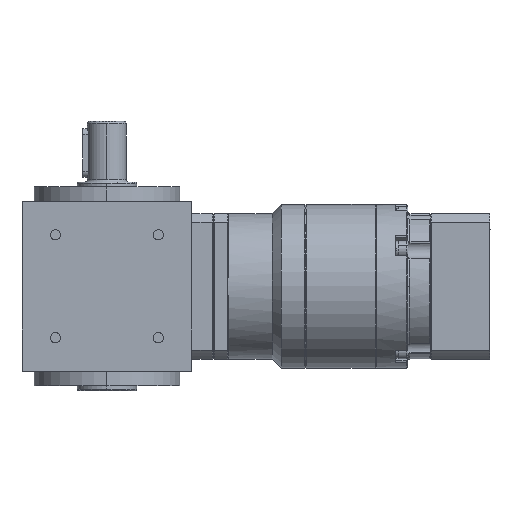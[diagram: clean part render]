
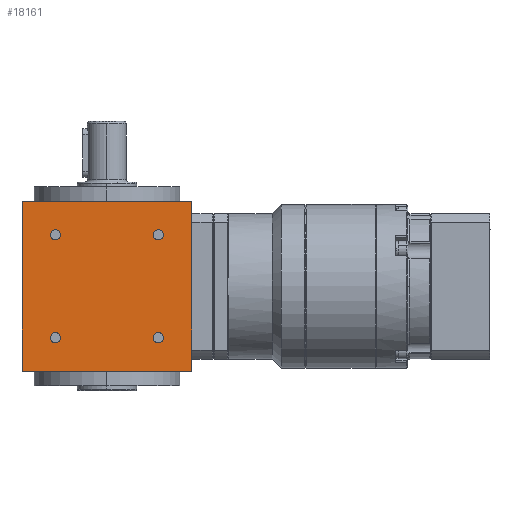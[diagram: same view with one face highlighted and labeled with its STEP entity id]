
A CAD part, left-side view. The second image highlights one B-rep face of the part: STEP entity #18161.
In plain terms, the highlighted planar face has unit normal (-1, 0, 0).
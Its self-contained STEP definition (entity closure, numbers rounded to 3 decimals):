
#19 = ORIENTED_EDGE ( 'NONE', *, *, #26090, .T. ) ;
#114 = EDGE_LOOP ( 'NONE', ( #20665, #18814 ) ) ;
#406 = CARTESIAN_POINT ( 'NONE',  ( -35., -21.213, 21.213 ) ) ;
#896 = DIRECTION ( 'NONE',  ( 1., 0., 0. ) ) ;
#1480 = DIRECTION ( 'NONE',  ( 1., 0., 0. ) ) ;
#1617 = VERTEX_POINT ( 'NONE', #26657 ) ;
#2039 = CARTESIAN_POINT ( 'NONE',  ( -35., 19.113, -21.213 ) ) ;
#2168 = ORIENTED_EDGE ( 'NONE', *, *, #11171, .T. ) ;
#3095 = CARTESIAN_POINT ( 'NONE',  ( -35., 21.213, 21.213 ) ) ;
#3124 = VECTOR ( 'NONE', #5128, 1000. ) ;
#3933 = CIRCLE ( 'NONE', #14916, 2.1 ) ;
#4012 = EDGE_CURVE ( 'NONE', #31429, #11949, #23497, .T. ) ;
#4611 = CIRCLE ( 'NONE', #8281, 2.1 ) ;
#4901 = VERTEX_POINT ( 'NONE', #21063 ) ;
#5128 = DIRECTION ( 'NONE',  ( 0., -1., 0. ) ) ;
#5586 = CIRCLE ( 'NONE', #30213, 2.1 ) ;
#5631 = CARTESIAN_POINT ( 'NONE',  ( -35., 21.213, -21.213 ) ) ;
#5812 = EDGE_LOOP ( 'NONE', ( #18117, #26437 ) ) ;
#5967 = EDGE_LOOP ( 'NONE', ( #30938, #13299, #32366, #22234 ) ) ;
#6041 = EDGE_LOOP ( 'NONE', ( #25519, #2168 ) ) ;
#6938 = ORIENTED_EDGE ( 'NONE', *, *, #4012, .T. ) ;
#6987 = VERTEX_POINT ( 'NONE', #16715 ) ;
#7086 = AXIS2_PLACEMENT_3D ( 'NONE', #3095, #30624, #8149 ) ;
#7315 = VERTEX_POINT ( 'NONE', #13738 ) ;
#7822 = FACE_BOUND ( 'NONE', #114, .T. ) ;
#8149 = DIRECTION ( 'NONE',  ( 0., -1., 0. ) ) ;
#8281 = AXIS2_PLACEMENT_3D ( 'NONE', #5631, #896, #13016 ) ;
#8326 = VERTEX_POINT ( 'NONE', #10213 ) ;
#8504 = DIRECTION ( 'NONE',  ( 0., 0., -1. ) ) ;
#8648 = CIRCLE ( 'NONE', #7086, 2.1 ) ;
#8667 = VERTEX_POINT ( 'NONE', #13310 ) ;
#9309 = AXIS2_PLACEMENT_3D ( 'NONE', #27835, #19788, #29804 ) ;
#9439 = CARTESIAN_POINT ( 'NONE',  ( -35., -19.113, -21.213 ) ) ;
#9988 = CIRCLE ( 'NONE', #19959, 2.1 ) ;
#10078 = CIRCLE ( 'NONE', #12164, 2.1 ) ;
#10213 = CARTESIAN_POINT ( 'NONE',  ( -35., 35., 35. ) ) ;
#10225 = EDGE_CURVE ( 'NONE', #6987, #31085, #13432, .T. ) ;
#10229 = CARTESIAN_POINT ( 'NONE',  ( -35., -21.213, 21.213 ) ) ;
#11069 = CARTESIAN_POINT ( 'NONE',  ( -35., -35., -35. ) ) ;
#11165 = CARTESIAN_POINT ( 'NONE',  ( -35., -23.313, 21.213 ) ) ;
#11171 = EDGE_CURVE ( 'NONE', #12648, #4901, #19940, .T. ) ;
#11435 = CARTESIAN_POINT ( 'NONE',  ( -35., -21.213, -21.213 ) ) ;
#11576 = EDGE_CURVE ( 'NONE', #7315, #20350, #9988, .T. ) ;
#11949 = VERTEX_POINT ( 'NONE', #2039 ) ;
#12164 = AXIS2_PLACEMENT_3D ( 'NONE', #406, #15308, #30234 ) ;
#12195 = DIRECTION ( 'NONE',  ( 0., 0., 1. ) ) ;
#12281 = DIRECTION ( 'NONE',  ( 0., -1., 0. ) ) ;
#12441 = CARTESIAN_POINT ( 'NONE',  ( -35., -21.213, -21.213 ) ) ;
#12569 = FACE_OUTER_BOUND ( 'NONE', #5967, .T. ) ;
#12648 = VERTEX_POINT ( 'NONE', #9439 ) ;
#13016 = DIRECTION ( 'NONE',  ( 0., -1., 0. ) ) ;
#13299 = ORIENTED_EDGE ( 'NONE', *, *, #20849, .F. ) ;
#13310 = CARTESIAN_POINT ( 'NONE',  ( -35., 19.113, 21.213 ) ) ;
#13432 = LINE ( 'NONE', #13901, #25638 ) ;
#13738 = CARTESIAN_POINT ( 'NONE',  ( -35., -19.113, 21.213 ) ) ;
#13901 = CARTESIAN_POINT ( 'NONE',  ( -35., -35., -35. ) ) ;
#14118 = VECTOR ( 'NONE', #27037, 1000. ) ;
#14250 = DIRECTION ( 'NONE',  ( 0., -1., 0. ) ) ;
#14575 = LINE ( 'NONE', #19152, #14118 ) ;
#14916 = AXIS2_PLACEMENT_3D ( 'NONE', #11435, #21447, #27026 ) ;
#15308 = DIRECTION ( 'NONE',  ( 1., 0., 0. ) ) ;
#15444 = LINE ( 'NONE', #25619, #3124 ) ;
#16058 = EDGE_CURVE ( 'NONE', #20350, #7315, #10078, .T. ) ;
#16527 = CARTESIAN_POINT ( 'NONE',  ( -35., 21.213, -21.213 ) ) ;
#16715 = CARTESIAN_POINT ( 'NONE',  ( -35., -35., 35. ) ) ;
#17817 = FACE_BOUND ( 'NONE', #5812, .T. ) ;
#17930 = VERTEX_POINT ( 'NONE', #25884 ) ;
#18117 = ORIENTED_EDGE ( 'NONE', *, *, #16058, .T. ) ;
#18161 = ADVANCED_FACE ( 'NONE', ( #7822, #17817, #32245, #22093, #12569 ), #22569, .T. ) ;
#18814 = ORIENTED_EDGE ( 'NONE', *, *, #30414, .T. ) ;
#18979 = EDGE_CURVE ( 'NONE', #1617, #31085, #15444, .T. ) ;
#19152 = CARTESIAN_POINT ( 'NONE',  ( -35., 0., 35. ) ) ;
#19644 = CARTESIAN_POINT ( 'NONE',  ( -35., 21.213, 21.213 ) ) ;
#19788 = DIRECTION ( 'NONE',  ( -1., 0., 0. ) ) ;
#19940 = CIRCLE ( 'NONE', #23106, 2.1 ) ;
#19959 = AXIS2_PLACEMENT_3D ( 'NONE', #10229, #25335, #27634 ) ;
#19994 = DIRECTION ( 'NONE',  ( 1., 0., 0. ) ) ;
#20350 = VERTEX_POINT ( 'NONE', #11165 ) ;
#20665 = ORIENTED_EDGE ( 'NONE', *, *, #29206, .T. ) ;
#20849 = EDGE_CURVE ( 'NONE', #8326, #6987, #14575, .T. ) ;
#21063 = CARTESIAN_POINT ( 'NONE',  ( -35., -23.313, -21.213 ) ) ;
#21447 = DIRECTION ( 'NONE',  ( 1., 0., 0. ) ) ;
#21782 = DIRECTION ( 'NONE',  ( 0., -1., 0. ) ) ;
#22093 = FACE_BOUND ( 'NONE', #23989, .T. ) ;
#22234 = ORIENTED_EDGE ( 'NONE', *, *, #18979, .T. ) ;
#22569 = PLANE ( 'NONE',  #9309 ) ;
#23020 = CARTESIAN_POINT ( 'NONE',  ( -35., 23.313, -21.213 ) ) ;
#23106 = AXIS2_PLACEMENT_3D ( 'NONE', #12441, #19994, #12281 ) ;
#23497 = CIRCLE ( 'NONE', #31335, 2.1 ) ;
#23989 = EDGE_LOOP ( 'NONE', ( #19, #6938 ) ) ;
#24255 = DIRECTION ( 'NONE',  ( 1., 0., 0. ) ) ;
#25335 = DIRECTION ( 'NONE',  ( 1., 0., 0. ) ) ;
#25519 = ORIENTED_EDGE ( 'NONE', *, *, #28957, .T. ) ;
#25619 = CARTESIAN_POINT ( 'NONE',  ( -35., 0., -35. ) ) ;
#25638 = VECTOR ( 'NONE', #8504, 1000. ) ;
#25884 = CARTESIAN_POINT ( 'NONE',  ( -35., 23.313, 21.213 ) ) ;
#26090 = EDGE_CURVE ( 'NONE', #11949, #31429, #4611, .T. ) ;
#26437 = ORIENTED_EDGE ( 'NONE', *, *, #11576, .T. ) ;
#26657 = CARTESIAN_POINT ( 'NONE',  ( -35., 35., -35. ) ) ;
#26815 = LINE ( 'NONE', #31885, #27369 ) ;
#27026 = DIRECTION ( 'NONE',  ( 0., -1., 0. ) ) ;
#27037 = DIRECTION ( 'NONE',  ( 0., -1., 0. ) ) ;
#27369 = VECTOR ( 'NONE', #12195, 1000. ) ;
#27634 = DIRECTION ( 'NONE',  ( 0., -1., 0. ) ) ;
#27835 = CARTESIAN_POINT ( 'NONE',  ( -35., 35., -35. ) ) ;
#28957 = EDGE_CURVE ( 'NONE', #4901, #12648, #3933, .T. ) ;
#29206 = EDGE_CURVE ( 'NONE', #8667, #17930, #8648, .T. ) ;
#29804 = DIRECTION ( 'NONE',  ( 0., 0., 1. ) ) ;
#30213 = AXIS2_PLACEMENT_3D ( 'NONE', #19644, #24255, #14250 ) ;
#30234 = DIRECTION ( 'NONE',  ( 0., -1., 0. ) ) ;
#30414 = EDGE_CURVE ( 'NONE', #17930, #8667, #5586, .T. ) ;
#30624 = DIRECTION ( 'NONE',  ( 1., 0., 0. ) ) ;
#30938 = ORIENTED_EDGE ( 'NONE', *, *, #10225, .F. ) ;
#31085 = VERTEX_POINT ( 'NONE', #11069 ) ;
#31259 = EDGE_CURVE ( 'NONE', #1617, #8326, #26815, .T. ) ;
#31335 = AXIS2_PLACEMENT_3D ( 'NONE', #16527, #1480, #21782 ) ;
#31429 = VERTEX_POINT ( 'NONE', #23020 ) ;
#31885 = CARTESIAN_POINT ( 'NONE',  ( -35., 35., -35. ) ) ;
#32245 = FACE_BOUND ( 'NONE', #6041, .T. ) ;
#32366 = ORIENTED_EDGE ( 'NONE', *, *, #31259, .F. ) ;
